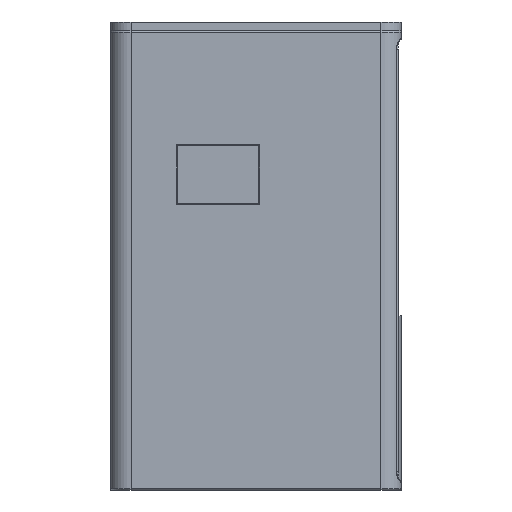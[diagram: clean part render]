
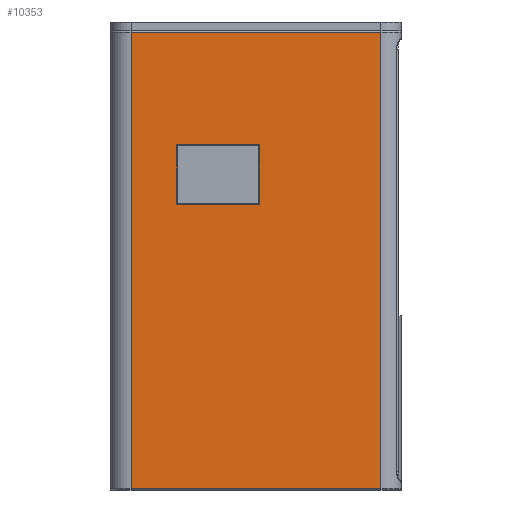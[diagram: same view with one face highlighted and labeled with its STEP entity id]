
A CAD part, left-side view. The second image highlights one B-rep face of the part: STEP entity #10353.
In plain terms, the highlighted planar face has unit normal (-1, 0, 0).
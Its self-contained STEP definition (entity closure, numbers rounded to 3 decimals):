
#5776 = CYLINDRICAL_SURFACE('',#5777,7.);
#5777 = AXIS2_PLACEMENT_3D('',#5778,#5779,#5780);
#5778 = CARTESIAN_POINT('',(7.,7.,0.));
#5779 = DIRECTION('',(0.,0.,1.));
#5780 = DIRECTION('',(-1.,-0.,0.));
#7366 = PLANE('',#7367);
#7367 = AXIS2_PLACEMENT_3D('',#7368,#7369,#7370);
#7368 = CARTESIAN_POINT('',(0.15,77.,98.35));
#7369 = DIRECTION('',(0.707,0.,-0.707
    ));
#7370 = DIRECTION('',(0.,-1.,0.));
#7420 = PLANE('',#7421);
#7421 = AXIS2_PLACEMENT_3D('',#7422,#7423,#7424);
#7422 = CARTESIAN_POINT('',(0.15,77.15,98.5));
#7423 = DIRECTION('',(-0.707,-0.707,0.
    ));
#7424 = DIRECTION('',(0.,0.,1.));
#7474 = PLANE('',#7475);
#7475 = AXIS2_PLACEMENT_3D('',#7476,#7477,#7478);
#7476 = CARTESIAN_POINT('',(0.15,48.85,98.5));
#7477 = DIRECTION('',(0.707,-0.707,0.
    ));
#7478 = DIRECTION('',(0.,0.,1.));
#7526 = PLANE('',#7527);
#7527 = AXIS2_PLACEMENT_3D('',#7528,#7529,#7530);
#7528 = CARTESIAN_POINT('',(0.15,77.,118.65));
#7529 = DIRECTION('',(-0.707,0.,-0.707
    ));
#7530 = DIRECTION('',(0.,-1.,0.));
#7647 = CYLINDRICAL_SURFACE('',#7648,0.5);
#7648 = AXIS2_PLACEMENT_3D('',#7649,#7650,#7651);
#7649 = CARTESIAN_POINT('',(0.5,93.,157.5));
#7650 = DIRECTION('',(0.,-1.,-0.));
#7651 = DIRECTION('',(0.,0.,1.));
#8367 = VERTEX_POINT('',#8368);
#8368 = CARTESIAN_POINT('',(0.,7.,157.5));
#8390 = EDGE_CURVE('',#8391,#8367,#8393,.T.);
#8391 = VERTEX_POINT('',#8392);
#8392 = CARTESIAN_POINT('',(0.,7.,0.5));
#8393 = SURFACE_CURVE('',#8394,(#8398,#8405),.PCURVE_S1.);
#8394 = LINE('',#8395,#8396);
#8395 = CARTESIAN_POINT('',(0.,7.,0.));
#8396 = VECTOR('',#8397,1.);
#8397 = DIRECTION('',(0.,0.,1.));
#8398 = PCURVE('',#5776,#8399);
#8399 = DEFINITIONAL_REPRESENTATION('',(#8400),#8404);
#8400 = LINE('',#8401,#8402);
#8401 = CARTESIAN_POINT('',(0.,0.));
#8402 = VECTOR('',#8403,1.);
#8403 = DIRECTION('',(0.,1.));
#8404 = ( GEOMETRIC_REPRESENTATION_CONTEXT(2)
PARAMETRIC_REPRESENTATION_CONTEXT() REPRESENTATION_CONTEXT('2D SPACE',''
  ) );
#8405 = PCURVE('',#8406,#8411);
#8406 = PLANE('',#8407);
#8407 = AXIS2_PLACEMENT_3D('',#8408,#8409,#8410);
#8408 = CARTESIAN_POINT('',(0.,0.,0.));
#8409 = DIRECTION('',(1.,0.,-0.));
#8410 = DIRECTION('',(0.,0.,1.));
#8411 = DEFINITIONAL_REPRESENTATION('',(#8412),#8416);
#8412 = LINE('',#8413,#8414);
#8413 = CARTESIAN_POINT('',(0.,-7.));
#8414 = VECTOR('',#8415,1.);
#8415 = DIRECTION('',(1.,0.));
#8416 = ( GEOMETRIC_REPRESENTATION_CONTEXT(2)
PARAMETRIC_REPRESENTATION_CONTEXT() REPRESENTATION_CONTEXT('2D SPACE',''
  ) );
#8573 = VERTEX_POINT('',#8574);
#8574 = CARTESIAN_POINT('',(0.,77.3,98.2));
#8597 = VERTEX_POINT('',#8598);
#8598 = CARTESIAN_POINT('',(0.,48.7,98.2));
#8619 = EDGE_CURVE('',#8573,#8597,#8620,.T.);
#8620 = SURFACE_CURVE('',#8621,(#8625,#8632),.PCURVE_S1.);
#8621 = LINE('',#8622,#8623);
#8622 = CARTESIAN_POINT('',(0.,77.,98.2));
#8623 = VECTOR('',#8624,1.);
#8624 = DIRECTION('',(0.,-1.,0.));
#8625 = PCURVE('',#7366,#8626);
#8626 = DEFINITIONAL_REPRESENTATION('',(#8627),#8631);
#8627 = LINE('',#8628,#8629);
#8628 = CARTESIAN_POINT('',(0.,0.212));
#8629 = VECTOR('',#8630,1.);
#8630 = DIRECTION('',(1.,0.));
#8631 = ( GEOMETRIC_REPRESENTATION_CONTEXT(2)
PARAMETRIC_REPRESENTATION_CONTEXT() REPRESENTATION_CONTEXT('2D SPACE',''
  ) );
#8632 = PCURVE('',#8406,#8633);
#8633 = DEFINITIONAL_REPRESENTATION('',(#8634),#8638);
#8634 = LINE('',#8635,#8636);
#8635 = CARTESIAN_POINT('',(98.2,-77.));
#8636 = VECTOR('',#8637,1.);
#8637 = DIRECTION('',(0.,1.));
#8638 = ( GEOMETRIC_REPRESENTATION_CONTEXT(2)
PARAMETRIC_REPRESENTATION_CONTEXT() REPRESENTATION_CONTEXT('2D SPACE',''
  ) );
#8646 = VERTEX_POINT('',#8647);
#8647 = CARTESIAN_POINT('',(0.,77.3,118.8));
#8668 = EDGE_CURVE('',#8573,#8646,#8669,.T.);
#8669 = SURFACE_CURVE('',#8670,(#8674,#8681),.PCURVE_S1.);
#8670 = LINE('',#8671,#8672);
#8671 = CARTESIAN_POINT('',(0.,77.3,98.5));
#8672 = VECTOR('',#8673,1.);
#8673 = DIRECTION('',(0.,0.,1.));
#8674 = PCURVE('',#7420,#8675);
#8675 = DEFINITIONAL_REPRESENTATION('',(#8676),#8680);
#8676 = LINE('',#8677,#8678);
#8677 = CARTESIAN_POINT('',(0.,0.212));
#8678 = VECTOR('',#8679,1.);
#8679 = DIRECTION('',(1.,0.));
#8680 = ( GEOMETRIC_REPRESENTATION_CONTEXT(2)
PARAMETRIC_REPRESENTATION_CONTEXT() REPRESENTATION_CONTEXT('2D SPACE',''
  ) );
#8681 = PCURVE('',#8406,#8682);
#8682 = DEFINITIONAL_REPRESENTATION('',(#8683),#8687);
#8683 = LINE('',#8684,#8685);
#8684 = CARTESIAN_POINT('',(98.5,-77.3));
#8685 = VECTOR('',#8686,1.);
#8686 = DIRECTION('',(1.,0.));
#8687 = ( GEOMETRIC_REPRESENTATION_CONTEXT(2)
PARAMETRIC_REPRESENTATION_CONTEXT() REPRESENTATION_CONTEXT('2D SPACE',''
  ) );
#8695 = VERTEX_POINT('',#8696);
#8696 = CARTESIAN_POINT('',(0.,48.7,118.8));
#8717 = EDGE_CURVE('',#8597,#8695,#8718,.T.);
#8718 = SURFACE_CURVE('',#8719,(#8723,#8730),.PCURVE_S1.);
#8719 = LINE('',#8720,#8721);
#8720 = CARTESIAN_POINT('',(0.,48.7,98.5));
#8721 = VECTOR('',#8722,1.);
#8722 = DIRECTION('',(0.,0.,1.));
#8723 = PCURVE('',#7474,#8724);
#8724 = DEFINITIONAL_REPRESENTATION('',(#8725),#8729);
#8725 = LINE('',#8726,#8727);
#8726 = CARTESIAN_POINT('',(0.,0.212));
#8727 = VECTOR('',#8728,1.);
#8728 = DIRECTION('',(1.,0.));
#8729 = ( GEOMETRIC_REPRESENTATION_CONTEXT(2)
PARAMETRIC_REPRESENTATION_CONTEXT() REPRESENTATION_CONTEXT('2D SPACE',''
  ) );
#8730 = PCURVE('',#8406,#8731);
#8731 = DEFINITIONAL_REPRESENTATION('',(#8732),#8736);
#8732 = LINE('',#8733,#8734);
#8733 = CARTESIAN_POINT('',(98.5,-48.7));
#8734 = VECTOR('',#8735,1.);
#8735 = DIRECTION('',(1.,0.));
#8736 = ( GEOMETRIC_REPRESENTATION_CONTEXT(2)
PARAMETRIC_REPRESENTATION_CONTEXT() REPRESENTATION_CONTEXT('2D SPACE',''
  ) );
#8744 = EDGE_CURVE('',#8646,#8695,#8745,.T.);
#8745 = SURFACE_CURVE('',#8746,(#8750,#8757),.PCURVE_S1.);
#8746 = LINE('',#8747,#8748);
#8747 = CARTESIAN_POINT('',(0.,77.,118.8));
#8748 = VECTOR('',#8749,1.);
#8749 = DIRECTION('',(0.,-1.,0.));
#8750 = PCURVE('',#7526,#8751);
#8751 = DEFINITIONAL_REPRESENTATION('',(#8752),#8756);
#8752 = LINE('',#8753,#8754);
#8753 = CARTESIAN_POINT('',(0.,0.212));
#8754 = VECTOR('',#8755,1.);
#8755 = DIRECTION('',(1.,0.));
#8756 = ( GEOMETRIC_REPRESENTATION_CONTEXT(2)
PARAMETRIC_REPRESENTATION_CONTEXT() REPRESENTATION_CONTEXT('2D SPACE',''
  ) );
#8757 = PCURVE('',#8406,#8758);
#8758 = DEFINITIONAL_REPRESENTATION('',(#8759),#8763);
#8759 = LINE('',#8760,#8761);
#8760 = CARTESIAN_POINT('',(118.8,-77.));
#8761 = VECTOR('',#8762,1.);
#8762 = DIRECTION('',(0.,1.));
#8763 = ( GEOMETRIC_REPRESENTATION_CONTEXT(2)
PARAMETRIC_REPRESENTATION_CONTEXT() REPRESENTATION_CONTEXT('2D SPACE',''
  ) );
#8971 = VERTEX_POINT('',#8972);
#8972 = CARTESIAN_POINT('',(0.,93.,157.5));
#9007 = CYLINDRICAL_SURFACE('',#9008,7.);
#9008 = AXIS2_PLACEMENT_3D('',#9009,#9010,#9011);
#9009 = CARTESIAN_POINT('',(7.,93.,0.));
#9010 = DIRECTION('',(0.,0.,1.));
#9011 = DIRECTION('',(-1.,-0.,0.));
#9049 = EDGE_CURVE('',#8971,#8367,#9050,.T.);
#9050 = SURFACE_CURVE('',#9051,(#9055,#9062),.PCURVE_S1.);
#9051 = LINE('',#9052,#9053);
#9052 = CARTESIAN_POINT('',(0.,93.,157.5));
#9053 = VECTOR('',#9054,1.);
#9054 = DIRECTION('',(0.,-1.,-0.));
#9055 = PCURVE('',#7647,#9056);
#9056 = DEFINITIONAL_REPRESENTATION('',(#9057),#9061);
#9057 = LINE('',#9058,#9059);
#9058 = CARTESIAN_POINT('',(1.571,0.));
#9059 = VECTOR('',#9060,1.);
#9060 = DIRECTION('',(0.,1.));
#9061 = ( GEOMETRIC_REPRESENTATION_CONTEXT(2)
PARAMETRIC_REPRESENTATION_CONTEXT() REPRESENTATION_CONTEXT('2D SPACE',''
  ) );
#9062 = PCURVE('',#8406,#9063);
#9063 = DEFINITIONAL_REPRESENTATION('',(#9064),#9068);
#9064 = LINE('',#9065,#9066);
#9065 = CARTESIAN_POINT('',(157.5,-93.));
#9066 = VECTOR('',#9067,1.);
#9067 = DIRECTION('',(0.,1.));
#9068 = ( GEOMETRIC_REPRESENTATION_CONTEXT(2)
PARAMETRIC_REPRESENTATION_CONTEXT() REPRESENTATION_CONTEXT('2D SPACE',''
  ) );
#10317 = CYLINDRICAL_SURFACE('',#10318,0.5);
#10318 = AXIS2_PLACEMENT_3D('',#10319,#10320,#10321);
#10319 = CARTESIAN_POINT('',(0.5,7.,0.5));
#10320 = DIRECTION('',(-0.,1.,0.));
#10321 = DIRECTION('',(-1.,-0.,0.));
#10353 = ADVANCED_FACE('',(#10354,#10360),#8406,.F.);
#10354 = FACE_BOUND('',#10355,.F.);
#10355 = EDGE_LOOP('',(#10356,#10357,#10358,#10359));
#10356 = ORIENTED_EDGE('',*,*,#8619,.T.);
#10357 = ORIENTED_EDGE('',*,*,#8717,.T.);
#10358 = ORIENTED_EDGE('',*,*,#8744,.F.);
#10359 = ORIENTED_EDGE('',*,*,#8668,.F.);
#10360 = FACE_BOUND('',#10361,.F.);
#10361 = EDGE_LOOP('',(#10362,#10363,#10386,#10407));
#10362 = ORIENTED_EDGE('',*,*,#8390,.F.);
#10363 = ORIENTED_EDGE('',*,*,#10364,.T.);
#10364 = EDGE_CURVE('',#8391,#10365,#10367,.T.);
#10365 = VERTEX_POINT('',#10366);
#10366 = CARTESIAN_POINT('',(0.,93.,0.5));
#10367 = SURFACE_CURVE('',#10368,(#10372,#10379),.PCURVE_S1.);
#10368 = LINE('',#10369,#10370);
#10369 = CARTESIAN_POINT('',(0.,7.,0.5));
#10370 = VECTOR('',#10371,1.);
#10371 = DIRECTION('',(-0.,1.,0.));
#10372 = PCURVE('',#8406,#10373);
#10373 = DEFINITIONAL_REPRESENTATION('',(#10374),#10378);
#10374 = LINE('',#10375,#10376);
#10375 = CARTESIAN_POINT('',(0.5,-7.));
#10376 = VECTOR('',#10377,1.);
#10377 = DIRECTION('',(0.,-1.));
#10378 = ( GEOMETRIC_REPRESENTATION_CONTEXT(2)
PARAMETRIC_REPRESENTATION_CONTEXT() REPRESENTATION_CONTEXT('2D SPACE',''
  ) );
#10379 = PCURVE('',#10317,#10380);
#10380 = DEFINITIONAL_REPRESENTATION('',(#10381),#10385);
#10381 = LINE('',#10382,#10383);
#10382 = CARTESIAN_POINT('',(-0.,0.));
#10383 = VECTOR('',#10384,1.);
#10384 = DIRECTION('',(-0.,1.));
#10385 = ( GEOMETRIC_REPRESENTATION_CONTEXT(2)
PARAMETRIC_REPRESENTATION_CONTEXT() REPRESENTATION_CONTEXT('2D SPACE',''
  ) );
#10386 = ORIENTED_EDGE('',*,*,#10387,.T.);
#10387 = EDGE_CURVE('',#10365,#8971,#10388,.T.);
#10388 = SURFACE_CURVE('',#10389,(#10393,#10400),.PCURVE_S1.);
#10389 = LINE('',#10390,#10391);
#10390 = CARTESIAN_POINT('',(0.,93.,0.));
#10391 = VECTOR('',#10392,1.);
#10392 = DIRECTION('',(0.,0.,1.));
#10393 = PCURVE('',#8406,#10394);
#10394 = DEFINITIONAL_REPRESENTATION('',(#10395),#10399);
#10395 = LINE('',#10396,#10397);
#10396 = CARTESIAN_POINT('',(0.,-93.));
#10397 = VECTOR('',#10398,1.);
#10398 = DIRECTION('',(1.,0.));
#10399 = ( GEOMETRIC_REPRESENTATION_CONTEXT(2)
PARAMETRIC_REPRESENTATION_CONTEXT() REPRESENTATION_CONTEXT('2D SPACE',''
  ) );
#10400 = PCURVE('',#9007,#10401);
#10401 = DEFINITIONAL_REPRESENTATION('',(#10402),#10406);
#10402 = LINE('',#10403,#10404);
#10403 = CARTESIAN_POINT('',(-0.,0.));
#10404 = VECTOR('',#10405,1.);
#10405 = DIRECTION('',(-0.,1.));
#10406 = ( GEOMETRIC_REPRESENTATION_CONTEXT(2)
PARAMETRIC_REPRESENTATION_CONTEXT() REPRESENTATION_CONTEXT('2D SPACE',''
  ) );
#10407 = ORIENTED_EDGE('',*,*,#9049,.T.);
